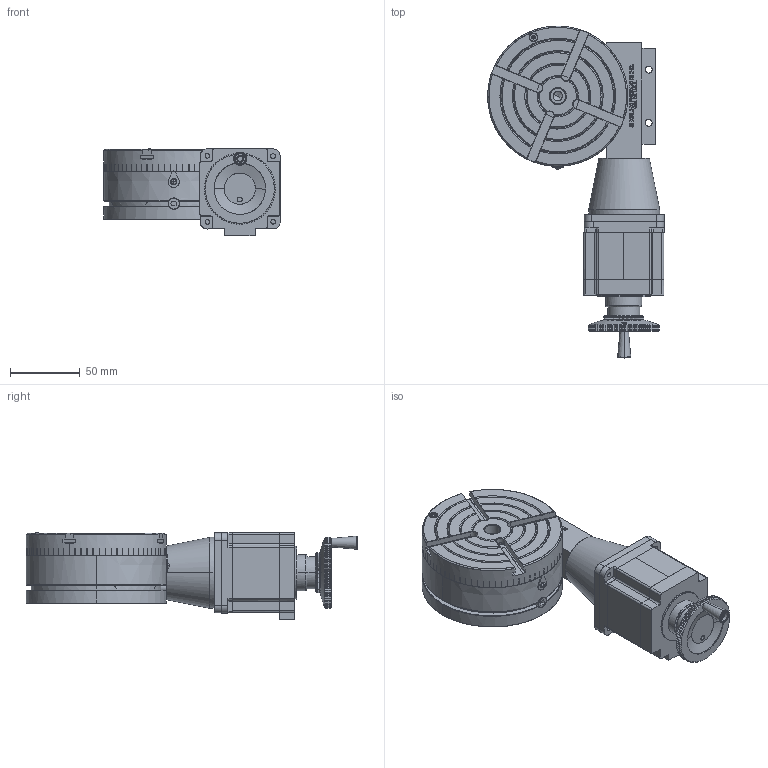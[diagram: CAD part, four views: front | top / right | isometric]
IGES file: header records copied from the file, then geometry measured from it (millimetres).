
Start section: Comment
Global section: file name: 3710-rotorytable stepper.igs; native system:  By Spatial Corp.; preprocessor: XPlus PS/IGES 3.0; author: sherline; organization: Title; date: 20210517.151450; units: inch
Bounding box: 126.4 x 237.62 x 62.58 mm (x, y, z)
Surface area: 131483.9 mm2 (no closed solid volume)
Topology: 0 solids, 0 shells, 2372 faces, 12366 edges, 12350 vertices
Faces by surface type: extrusion 1515, revolution 857
